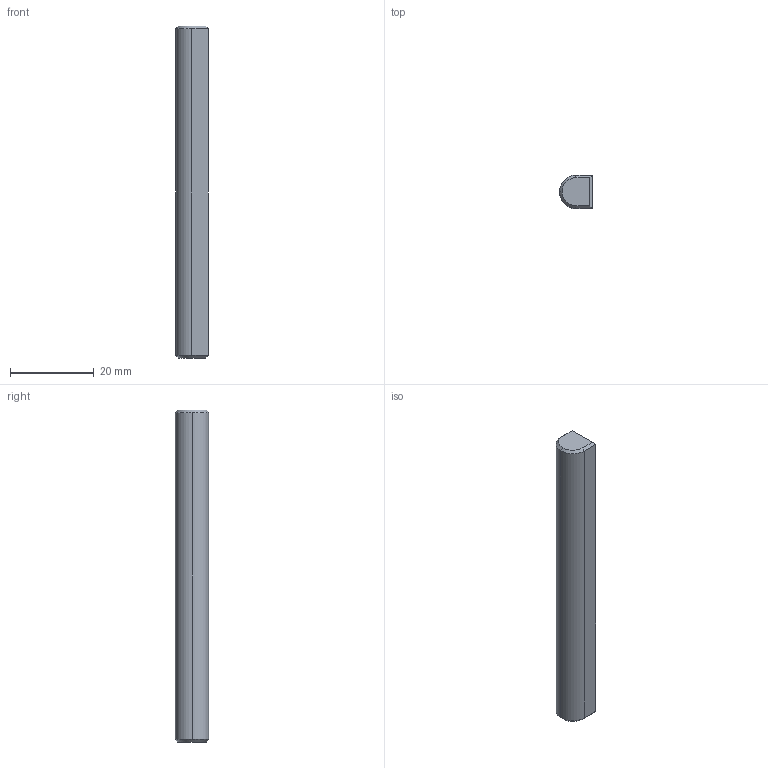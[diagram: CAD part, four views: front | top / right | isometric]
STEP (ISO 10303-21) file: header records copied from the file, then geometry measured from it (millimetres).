
FILE_DESCRIPTION (( 'STEP AP214' ), '1' );
FILE_NAME ('Ferris Wheel - Spacer.STEP', '2022-06-13T02:43:06', ( '' ), ( '' ), 'SwSTEP 2.0', 'SolidWorks 2020', '' );
FILE_SCHEMA (( 'AUTOMOTIVE_DESIGN' ));
Length unit declared in the file: millimetre
Products named in the file (1): Ferris Wheel - Spacer
Bounding box: 7.85 x 8 x 79.5 mm (x, y, z)
Volume: 4436.2 mm3; surface area: 2337.9 mm2
Topology: 1 solids, 1 shells, 16 faces, 33 edges, 19 vertices
Faces by surface type: plane 11, cone 3, cylinder 2
Entity records: 450 total; most frequent: CARTESIAN_POINT 81, DIRECTION 70, ORIENTED_EDGE 66, EDGE_CURVE 33, AXIS2_PLACEMENT_3D 24, VECTOR 22, LINE 22, VERTEX_POINT 19
